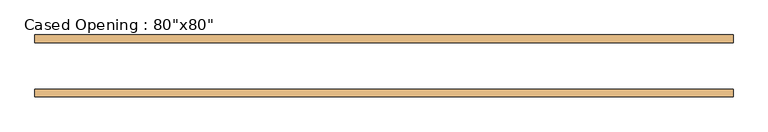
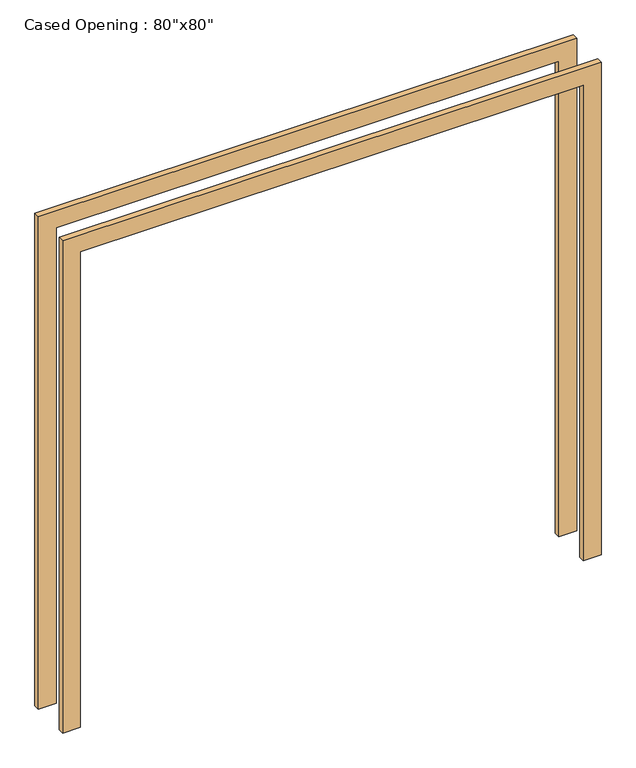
"""IFC4 building model written with IfcOpenShell, lengths in millimetres: door geometry."""

from ifc_helpers import new_model, si_unit, frame, origin, place, context, project, spatial, polyline, outline, extrude, source, transform, mapped, element, save


def door_abc59dae(model_context):
    return source(origin(), model_context, "Body", "SweptSolid", [
        extrude(outline(polyline([(2133.6, 1066.8), (0.0, 1066.8), (0.0, 1143.0), (2209.8, 1143.0), (2209.8, -1143.0), (0.0, -1143.0), (0.0, -1066.8), (2133.6, -1066.8), (2133.6, 1066.8)])), frame((0.0, 76.2, 0.0), z_axis=(0.0, 1.0, 0.0), x_axis=(0.0, 0.0, 1.0)), (0.0, 0.0, 1.0), 25.4),
        extrude(outline(polyline([(0.0, -1143.0), (0.0, -1066.8), (2133.6, -1066.8), (2133.6, 1066.8), (0.0, 1066.8), (0.0, 1143.0), (2209.8, 1143.0), (2209.8, -1143.0), (0.0, -1143.0)])), frame((0.0, -101.6, 0.0), z_axis=(0.0, 1.0, 0.0), x_axis=(0.0, 0.0, 1.0)), (0.0, 0.0, 1.0), 25.4),
    ])


if __name__ == "__main__":
    model = new_model("IFC4")
    model_context = context("Model", 3, world=origin())
    ifc_project = project(units=[si_unit("LENGTHUNIT", "METRE", prefix="MILLI")], contexts=[model_context])
    site = spatial("IfcSite", under=ifc_project)
    building = spatial("IfcBuilding", under=site)
    placement = place(None, origin())
    door_shape = door_abc59dae(model_context)
    element("IfcDoor", 1, ObjectType="Cased Opening : 80\"x80\"", at=placement, inside=building, context=model_context, shape_type="MappedRepresentation", body=[
        mapped(door_shape, transform((0.0, 0.0, 0.0), x_axis=(1.0, 0.0, 0.0), y_axis=(0.0, 1.0, 0.0), z_axis=(0.0, 0.0, 1.0))),
    ])
    save(model, "model.ifc")
